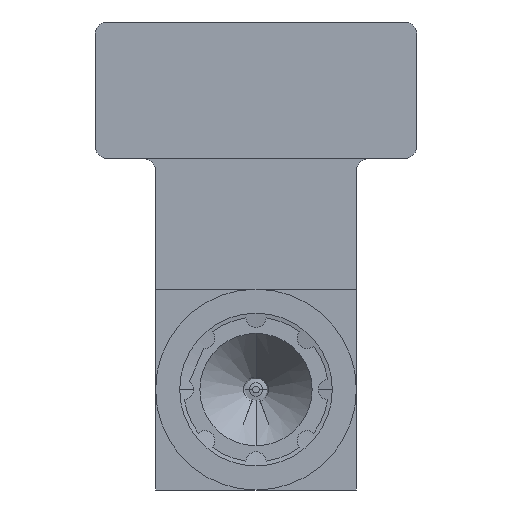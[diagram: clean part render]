
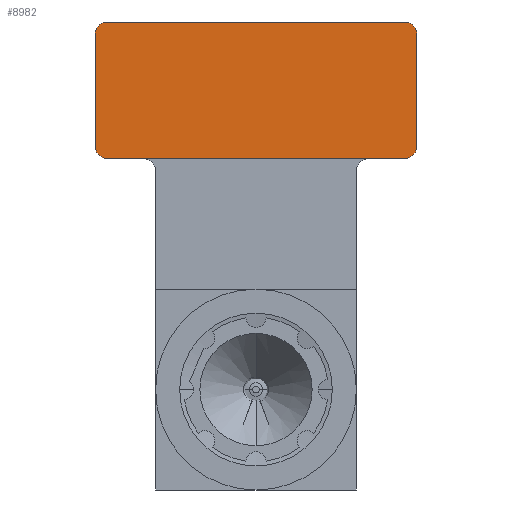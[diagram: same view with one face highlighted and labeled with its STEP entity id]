
A CAD part, front view. The second image highlights one B-rep face of the part: STEP entity #8982.
In plain terms, the highlighted planar face has unit normal (0, -1, 0).
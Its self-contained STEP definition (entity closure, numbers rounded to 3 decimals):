
#8739=CARTESIAN_POINT('',(-3.7,-0.18,8.85));
#8740=DIRECTION('',(0.,-1.,0.));
#8741=DIRECTION('',(0.,0.,1.));
#8742=AXIS2_PLACEMENT_3D('',#8739,#8740,#8741);
#8747=DIRECTION('',(-1.,0.,0.));
#8748=VECTOR('',#8747,7.4);
#8749=CARTESIAN_POINT('',(3.7,-0.18,9.15));
#8750=LINE('',#8749,#8748);
#8754=CARTESIAN_POINT('',(3.7,-0.18,8.85));
#8755=DIRECTION('',(0.,-1.,0.));
#8756=DIRECTION('',(1.,0.,0.));
#8757=AXIS2_PLACEMENT_3D('',#8754,#8755,#8756);
#8762=DIRECTION('',(0.,0.,1.));
#8763=VECTOR('',#8762,2.8);
#8764=CARTESIAN_POINT('',(4.,-0.18,6.05));
#8765=LINE('',#8764,#8763);
#8769=CARTESIAN_POINT('',(3.7,-0.18,6.05));
#8770=DIRECTION('',(0.,-1.,0.));
#8771=DIRECTION('',(0.,0.,-1.));
#8772=AXIS2_PLACEMENT_3D('',#8769,#8770,#8771);
#8777=DIRECTION('',(1.,0.,0.));
#8778=VECTOR('',#8777,7.4);
#8779=CARTESIAN_POINT('',(-3.7,-0.18,5.75));
#8780=LINE('',#8779,#8778);
#8784=CARTESIAN_POINT('',(-3.7,-0.18,6.05));
#8785=DIRECTION('',(0.,-1.,0.));
#8786=DIRECTION('',(-1.,0.,0.));
#8787=AXIS2_PLACEMENT_3D('',#8784,#8785,#8786);
#8792=DIRECTION('',(0.,0.,-1.));
#8793=VECTOR('',#8792,2.8);
#8794=CARTESIAN_POINT('',(-4.,-0.18,8.85));
#8795=LINE('',#8794,#8793);
#8815=CARTESIAN_POINT('',(-3.7,-0.18,9.15));
#8816=CARTESIAN_POINT('',(-4.,-0.18,8.85));
#8817=VERTEX_POINT('',#8815);
#8818=VERTEX_POINT('',#8816);
#8819=CARTESIAN_POINT('',(-4.,-0.18,6.05));
#8820=VERTEX_POINT('',#8819);
#8821=CARTESIAN_POINT('',(-3.7,-0.18,5.75));
#8822=VERTEX_POINT('',#8821);
#8823=CARTESIAN_POINT('',(3.7,-0.18,5.75));
#8824=VERTEX_POINT('',#8823);
#8825=CARTESIAN_POINT('',(4.,-0.18,6.05));
#8826=VERTEX_POINT('',#8825);
#8827=CARTESIAN_POINT('',(4.,-0.18,8.85));
#8828=VERTEX_POINT('',#8827);
#8829=CARTESIAN_POINT('',(3.7,-0.18,9.15));
#8830=VERTEX_POINT('',#8829);
#8967=CARTESIAN_POINT('',(0.,-0.18,0.));
#8968=DIRECTION('',(0.,-1.,0.));
#8969=DIRECTION('',(1.,0.,0.));
#8970=AXIS2_PLACEMENT_3D('',#8967,#8968,#8969);
#8971=PLANE('',#8970);
#8972=ORIENTED_EDGE('',*,*,#8863,.F.);
#8973=ORIENTED_EDGE('',*,*,#8878,.F.);
#8974=ORIENTED_EDGE('',*,*,#8892,.F.);
#8975=ORIENTED_EDGE('',*,*,#8906,.F.);
#8976=ORIENTED_EDGE('',*,*,#8920,.F.);
#8977=ORIENTED_EDGE('',*,*,#8934,.F.);
#8978=ORIENTED_EDGE('',*,*,#8948,.F.);
#8979=ORIENTED_EDGE('',*,*,#8961,.F.);
#8980=EDGE_LOOP('',(#8972,#8973,#8974,#8975,#8976,#8977,#8978,#8979));
#8981=FACE_OUTER_BOUND('',#8980,.F.);
#8743=CIRCLE('',#8742,0.3);
#8758=CIRCLE('',#8757,0.3);
#8773=CIRCLE('',#8772,0.3);
#8788=CIRCLE('',#8787,0.3);
#8863=EDGE_CURVE('',#8817,#8818,#8743,.T.);
#8878=EDGE_CURVE('',#8830,#8817,#8750,.T.);
#8892=EDGE_CURVE('',#8828,#8830,#8758,.T.);
#8906=EDGE_CURVE('',#8826,#8828,#8765,.T.);
#8920=EDGE_CURVE('',#8824,#8826,#8773,.T.);
#8934=EDGE_CURVE('',#8822,#8824,#8780,.T.);
#8948=EDGE_CURVE('',#8820,#8822,#8788,.T.);
#8961=EDGE_CURVE('',#8818,#8820,#8795,.T.);
#8982=ADVANCED_FACE('',(#8981),#8971,.T.);
